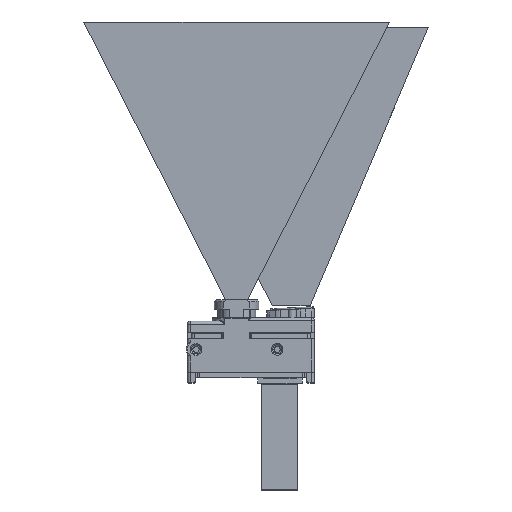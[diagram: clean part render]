
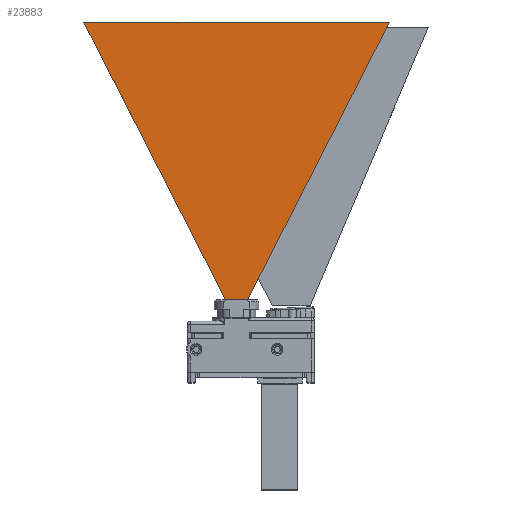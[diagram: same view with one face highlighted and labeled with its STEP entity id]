
A CAD part, top view. The second image highlights one B-rep face of the part: STEP entity #23883.
In plain terms, the highlighted planar face has unit normal (0, -0.026, 1) as drawn and (0, 0.026, -1) by its records, which use the part's own axes.
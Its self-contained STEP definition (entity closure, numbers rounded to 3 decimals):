
#23797=DIRECTION('',(-1.,0.,0.));
#23798=VECTOR('',#23797,4.);
#23799=CARTESIAN_POINT('',(2.,0.,-1.97));
#23800=LINE('',#23799,#23798);
#23801=DIRECTION('',(0.454,0.891,0.023));
#23802=VECTOR('',#23801,56.132);
#23803=CARTESIAN_POINT('',(-27.476,-50.,-3.279));
#23804=LINE('',#23803,#23802);
#23813=DIRECTION('',(-1.,0.,0.));
#23814=VECTOR('',#23813,54.953);
#23815=CARTESIAN_POINT('',(27.476,-50.,-3.279));
#23816=LINE('',#23815,#23814);
#23825=DIRECTION('',(0.454,-0.891,-0.023));
#23826=VECTOR('',#23825,56.132);
#23827=CARTESIAN_POINT('',(2.,0.,-1.97));
#23828=LINE('',#23827,#23826);
#23837=CARTESIAN_POINT('',(2.,0.,-1.97));
#23838=CARTESIAN_POINT('',(-2.,0.,-1.97));
#23839=VERTEX_POINT('',#23837);
#23840=VERTEX_POINT('',#23838);
#23845=CARTESIAN_POINT('',(-27.476,-50.,-3.279));
#23846=VERTEX_POINT('',#23845);
#23847=CARTESIAN_POINT('',(27.476,-50.,-3.279));
#23848=VERTEX_POINT('',#23847);
#23869=CARTESIAN_POINT('',(28.369,0.,-1.97));
#23870=DIRECTION('',(0.,0.026,-1.));
#23871=DIRECTION('',(-1.,0.,0.));
#23872=AXIS2_PLACEMENT_3D('',#23869,#23870,#23871);
#23873=PLANE('',#23872);
#23874=ORIENTED_EDGE('',*,*,#23858,.T.);
#23876=ORIENTED_EDGE('',*,*,#23875,.F.);
#23878=ORIENTED_EDGE('',*,*,#23877,.F.);
#23880=ORIENTED_EDGE('',*,*,#23879,.F.);
#23881=EDGE_LOOP('',(#23874,#23876,#23878,#23880));
#23882=FACE_OUTER_BOUND('',#23881,.F.);
#23883=ADVANCED_FACE('',(#23882),#23873,.T.);
#23858=EDGE_CURVE('',#23839,#23840,#23800,.T.);
#23875=EDGE_CURVE('',#23846,#23840,#23804,.T.);
#23877=EDGE_CURVE('',#23848,#23846,#23816,.T.);
#23879=EDGE_CURVE('',#23839,#23848,#23828,.T.);
